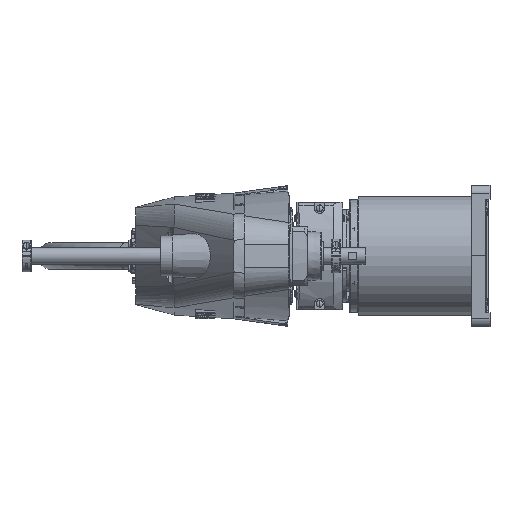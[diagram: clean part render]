
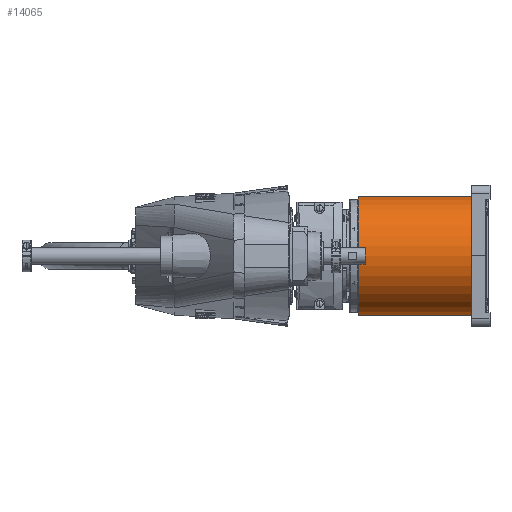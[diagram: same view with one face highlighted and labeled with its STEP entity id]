
A CAD part, left-side view. The second image highlights one B-rep face of the part: STEP entity #14065.
In plain terms, the highlighted cylindrical face has radius 71 mm (diameter 142 mm), a partial arc.
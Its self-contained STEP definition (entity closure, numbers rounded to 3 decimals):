
#861 = VERTEX_POINT ( 'NONE', #103454 ) ;
#1617 = EDGE_LOOP ( 'NONE', ( #80288, #61204, #33221, #31337 ) ) ;
#11330 = CARTESIAN_POINT ( 'NONE',  ( 0., 22., 0. ) ) ;
#14065 = ADVANCED_FACE ( 'NONE', ( #109136 ), #109690, .T. ) ;
#18816 = EDGE_CURVE ( 'NONE', #76310, #39196, #23232, .T. ) ;
#19327 = VECTOR ( 'NONE', #39041, 1000. ) ;
#23232 = CIRCLE ( 'NONE', #30536, 71. ) ;
#23712 = DIRECTION ( 'NONE',  ( 0., -1., 0. ) ) ;
#27095 = CARTESIAN_POINT ( 'NONE',  ( 0., 157.5, -71. ) ) ;
#29972 = LINE ( 'NONE', #73066, #19327 ) ;
#30536 = AXIS2_PLACEMENT_3D ( 'NONE', #11330, #36845, #72507 ) ;
#31337 = ORIENTED_EDGE ( 'NONE', *, *, #18816, .F. ) ;
#33221 = ORIENTED_EDGE ( 'NONE', *, *, #82320, .T. ) ;
#33743 = LINE ( 'NONE', #104408, #41676 ) ;
#36845 = DIRECTION ( 'NONE',  ( 0., -1., 0. ) ) ;
#37234 = CARTESIAN_POINT ( 'NONE',  ( 0., 157.5, 0. ) ) ;
#39041 = DIRECTION ( 'NONE',  ( 0., -1., 0. ) ) ;
#39196 = VERTEX_POINT ( 'NONE', #53641 ) ;
#41676 = VECTOR ( 'NONE', #104968, 1000. ) ;
#48676 = CARTESIAN_POINT ( 'NONE',  ( 0., 166.5, 0. ) ) ;
#49536 = AXIS2_PLACEMENT_3D ( 'NONE', #48676, #23712, #65079 ) ;
#53641 = CARTESIAN_POINT ( 'NONE',  ( 0., 22., -71. ) ) ;
#61204 = ORIENTED_EDGE ( 'NONE', *, *, #105010, .F. ) ;
#65079 = DIRECTION ( 'NONE',  ( 0., 0., -1. ) ) ;
#71672 = CARTESIAN_POINT ( 'NONE',  ( 0., 22., 71. ) ) ;
#72507 = DIRECTION ( 'NONE',  ( 0.166, 0., 0.986 ) ) ;
#73066 = CARTESIAN_POINT ( 'NONE',  ( 0., 166.5, 71. ) ) ;
#73592 = CIRCLE ( 'NONE', #89772, 71. ) ;
#76310 = VERTEX_POINT ( 'NONE', #71672 ) ;
#80288 = ORIENTED_EDGE ( 'NONE', *, *, #105878, .F. ) ;
#81347 = DIRECTION ( 'NONE',  ( 0., 1., 0. ) ) ;
#82320 = EDGE_CURVE ( 'NONE', #91733, #39196, #33743, .T. ) ;
#89772 = AXIS2_PLACEMENT_3D ( 'NONE', #37234, #81347, #97751 ) ;
#91733 = VERTEX_POINT ( 'NONE', #27095 ) ;
#97751 = DIRECTION ( 'NONE',  ( -1., 0., 0. ) ) ;
#103454 = CARTESIAN_POINT ( 'NONE',  ( 0., 157.5, 71. ) ) ;
#104408 = CARTESIAN_POINT ( 'NONE',  ( 0., 166.5, -71. ) ) ;
#104968 = DIRECTION ( 'NONE',  ( 0., -1., 0. ) ) ;
#105010 = EDGE_CURVE ( 'NONE', #91733, #861, #73592, .T. ) ;
#105878 = EDGE_CURVE ( 'NONE', #861, #76310, #29972, .T. ) ;
#109136 = FACE_OUTER_BOUND ( 'NONE', #1617, .T. ) ;
#109690 = CYLINDRICAL_SURFACE ( 'NONE', #49536, 71. ) ;
